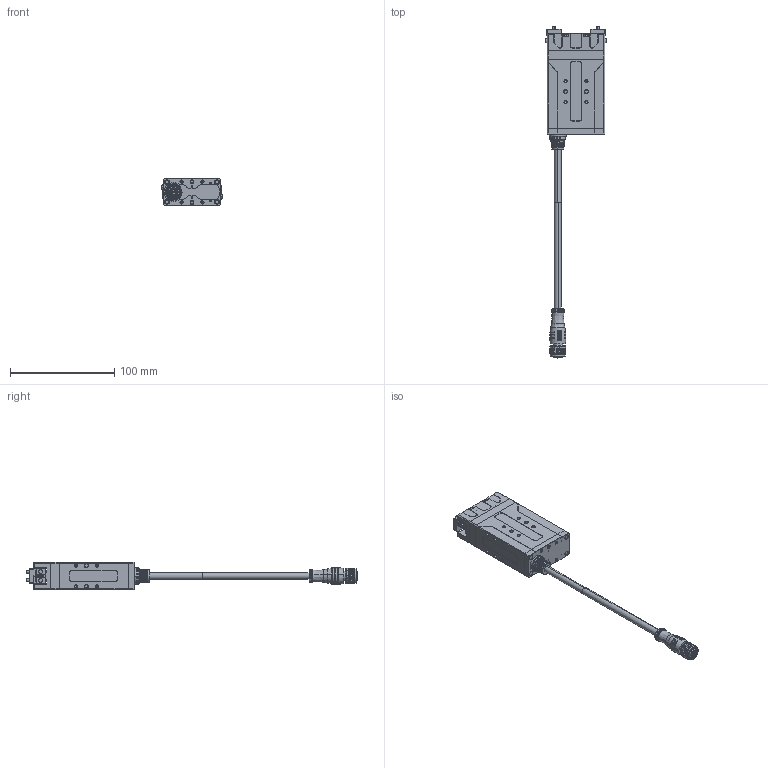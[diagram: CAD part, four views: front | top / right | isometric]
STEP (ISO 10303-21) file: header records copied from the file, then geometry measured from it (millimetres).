
FILE_DESCRIPTION (( 'STEP AP214' ), '1' );
FILE_NAME ('PGE-5-26-O-B.STEP', '2023-07-19T04:18:53', ( '' ), ( '' ), 'SwSTEP 2.0', 'SolidWorks 2020', '' );
FILE_SCHEMA (( 'AUTOMOTIVE_DESIGN' ));
Length unit declared in the file: millimetre
Products named in the file (3): PGE-5-26-O-B; PGE5-忒硌價釱; 菁堤褲
Assembly tree (3 placements, depth 2):
  PGE-5-26-O-B
    菁堤褲
    PGE5-忒硌價釱  x2
Bounding box: 58.4 x 318.5 x 26 mm (x, y, z)
Volume: 8194.6 mm3; surface area: 45699.9 mm2
Topology: 8 solids, 36 shells, 1730 faces, 4204 edges, 2609 vertices
Faces by surface type: plane 696, cylinder 416, cone 344, bspline 243, torus 30, sphere 1
Full cylindrical faces by diameter (mm): 11.1 x3
Entity records: 80254 total; most frequent: CARTESIAN_POINT 27050, ORIENTED_EDGE 7680, DIRECTION 6728, EDGE_CURVE 3844, AXIS2_PLACEMENT_3D 2458, VERTEX_POINT 2429, VECTOR 1812, LINE 1812
